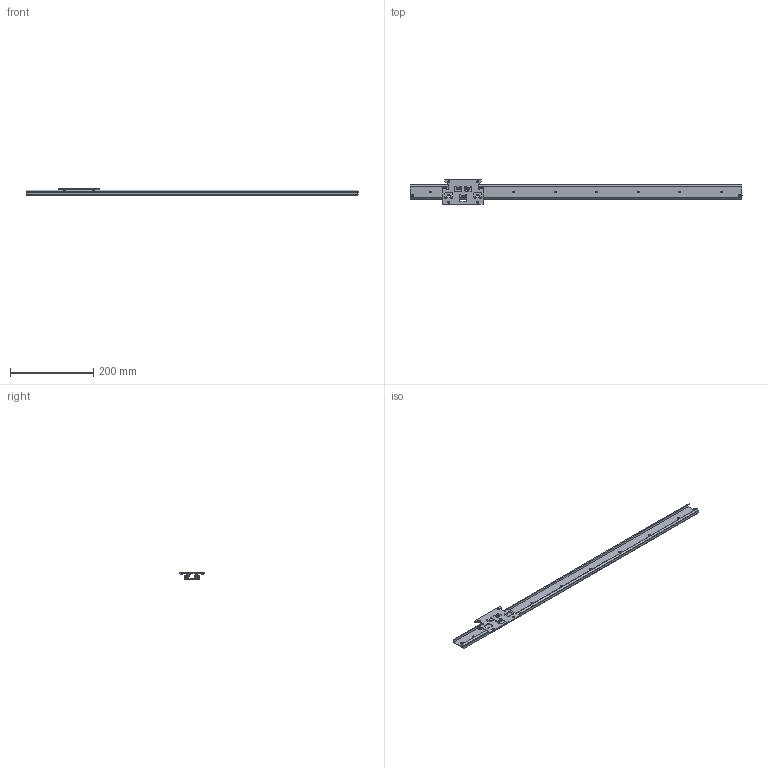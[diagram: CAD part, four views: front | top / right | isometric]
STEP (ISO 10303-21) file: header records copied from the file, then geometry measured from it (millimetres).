
FILE_DESCRIPTION((''),'1');
FILE_NAME('H:/図庫/国内ﾕﾆｯﾄ/ｽﾗｲﾄﾞ/ホームページ用ＣＡＤ図面/3D/37SW/stp', '2018-10-22T23:36:03',(''), (''), 'KCM Version 1.1.1442.0', 'Kubotek KeyCreator', '');
FILE_SCHEMA(('AUTOMOTIVE_DESIGN'));
Length unit declared in the file: millimetre
Bounding box: 800 x 60 x 14.8 mm (x, y, z)
Surface area: 113570.9 mm2 (no closed solid volume)
Topology: 0 solids, 623 shells, 623 faces, 2491 edges, 2190 vertices
Faces by surface type: plane 258, cone 170, cylinder 140, torus 48, bspline 6, sphere 1
Full cylindrical faces by diameter (mm): 2.3 x6, 2.44 x7, 3 x21, 3.5 x1, 4 x7, 4.03 x6, 4.5 x6, 5 x6, 5.5 x2, 5.6 x3, 6 x5, 8 x6, 8.2 x2
Entity records: 27401 total; most frequent: CARTESIAN_POINT 5632, DIRECTION 4877, ORIENTED_EDGE 2792, EDGE_CURVE 2490, VERTEX_POINT 2183, AXIS2_PLACEMENT_3D 1884, CIRCLE 1232, VECTOR 1109
